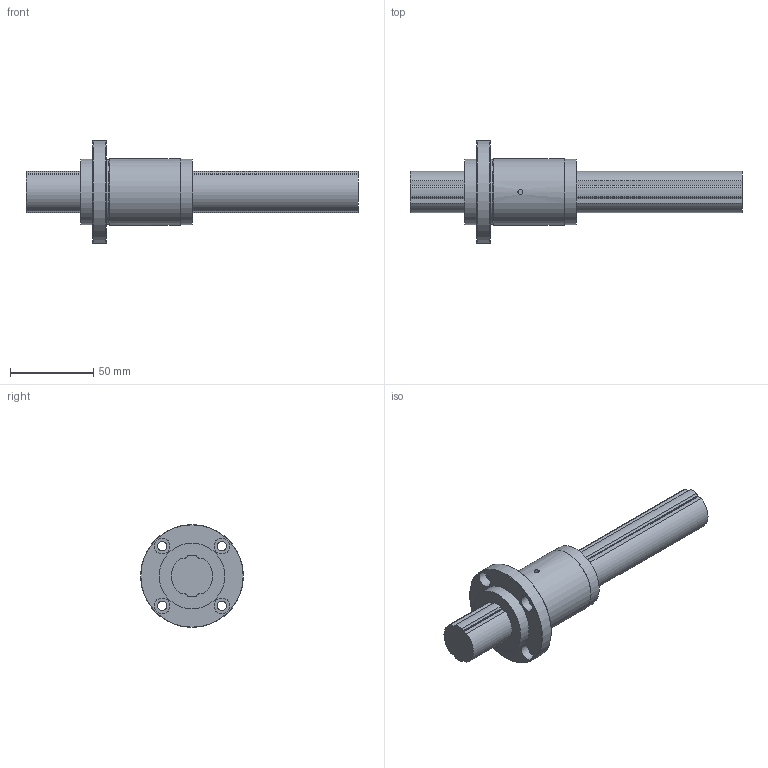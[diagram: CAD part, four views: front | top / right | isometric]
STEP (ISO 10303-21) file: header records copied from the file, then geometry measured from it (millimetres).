
FILE_DESCRIPTION(/* description */ ('STEP AP214'),/* implementation_level */ '2;1');
FILE_NAME(/* name */ 'LF25X+200L(00)',/* time_stamp */ '2024-09-05T14:47:46+02:00',/* author */ ('License CC BY-ND 4.0'),/* organization */ ('CADENAS'),/* preprocessor_version */ 'ST-DEVELOPER v19.3',/* originating_system */ 'PARTsolutions',/* authorisation */ ' ');
FILE_SCHEMA (('AUTOMOTIVE_DESIGN {1 0 10303 214 3 1 1}'));
Length unit declared in the file: millimetre
Products named in the file (3): LF25X+200L(00); 1LT25X 200Shaft; 1LF25X Cylindar
Assembly tree (2 placements, depth 2):
  LF25X+200L(00)
    1LT25X 200Shaft
    1LF25X Cylindar
Bounding box: 200 x 62 x 62 mm (x, y, z)
Volume: 159545.6 mm3; surface area: 37331.6 mm2
Topology: 2 solids, 2 shells, 77 faces, 196 edges, 129 vertices
Faces by surface type: cylinder 47, plane 27, cone 3
Full cylindrical faces by diameter (mm): 3 x2, 5.5 x4, 9.5 x4, 39.2 x1, 39.6 x2, 40 x1, 62 x1
Entity records: 2393 total; most frequent: DIRECTION 424, CARTESIAN_POINT 424, ORIENTED_EDGE 352, EDGE_CURVE 176, AXIS2_PLACEMENT_3D 172, VERTEX_POINT 128, EDGE_LOOP 116, FACE_BOUND 116
